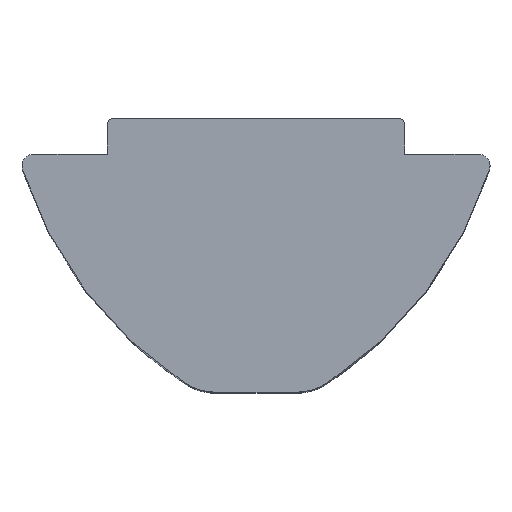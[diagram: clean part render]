
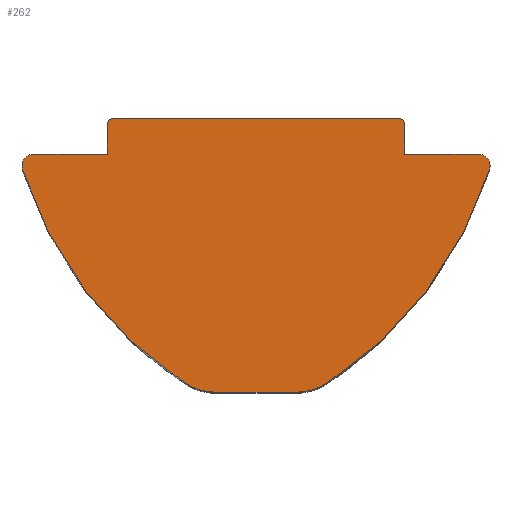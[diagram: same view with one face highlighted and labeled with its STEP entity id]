
A CAD part, top view. The second image highlights one B-rep face of the part: STEP entity #262.
In plain terms, the highlighted planar face has unit normal (0, 0, 1).
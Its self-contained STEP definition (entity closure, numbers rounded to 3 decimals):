
#84=CARTESIAN_POINT('',(-1.84,3.5,0.0));
#85=VERTEX_POINT('',#84);
#92=CARTESIAN_POINT('',(-1.74,3.6,0.0));
#93=VERTEX_POINT('',#92);
#94=CARTESIAN_POINT('',(-1.74,3.5,0.0));
#95=DIRECTION('',(0.0,0.0,-1.));
#96=DIRECTION('',(-0.707,0.707,0.0));
#97=AXIS2_PLACEMENT_3D('',#94,#95,#96);
#98=CIRCLE('',#97,0.1);
#99=EDGE_CURVE('',#85,#93,#98,.T.);
#116=CARTESIAN_POINT('',(3.06,3.6,0.0));
#117=VERTEX_POINT('',#116);
#118=CARTESIAN_POINT('',(-1.74,3.6,0.0));
#119=DIRECTION('',(1.0,0.0,0.0));
#120=VECTOR('',#119,4.8);
#121=LINE('',#118,#120);
#122=EDGE_CURVE('',#93,#117,#121,.T.);
#152=CARTESIAN_POINT('',(0.66,1.757,0.0));
#153=DIRECTION('',(0.0,0.0,1.0));
#154=DIRECTION('',(1.0,0.0,0.0));
#155=AXIS2_PLACEMENT_3D('',#152,#153,#154);
#156=PLANE('',#155);
#157=ORIENTED_EDGE('',*,*,#99,.F.);
#158=CARTESIAN_POINT('',(-1.84,3.,0.0));
#159=VERTEX_POINT('',#158);
#160=CARTESIAN_POINT('',(-1.84,3.,0.0));
#161=DIRECTION('',(0.0,1.0,0.0));
#162=VECTOR('',#161,0.5);
#163=LINE('',#160,#162);
#164=EDGE_CURVE('',#159,#85,#163,.T.);
#165=ORIENTED_EDGE('',*,*,#164,.F.);
#166=CARTESIAN_POINT('',(-3.072,3.,0.0));
#167=VERTEX_POINT('',#166);
#168=CARTESIAN_POINT('',(-3.072,3.,0.0));
#169=DIRECTION('',(1.0,0.0,0.0));
#170=VECTOR('',#169,1.232);
#171=LINE('',#168,#170);
#172=EDGE_CURVE('',#167,#159,#171,.T.);
#173=ORIENTED_EDGE('',*,*,#172,.F.);
#174=CARTESIAN_POINT('',(-3.263,2.739,0.0));
#175=VERTEX_POINT('',#174);
#176=CARTESIAN_POINT('',(-3.072,2.8,0.0));
#177=DIRECTION('',(0.0,0.0,-1.0));
#178=DIRECTION('',(-0.807,0.59,0.0));
#179=AXIS2_PLACEMENT_3D('',#176,#177,#178);
#180=CIRCLE('',#179,0.2);
#181=EDGE_CURVE('',#175,#167,#180,.T.);
#182=ORIENTED_EDGE('',*,*,#181,.F.);
#183=CARTESIAN_POINT('',(-0.549,-0.836,0.0));
#184=VERTEX_POINT('',#183);
#185=CARTESIAN_POINT('',(3.135,4.778,0.0));
#186=DIRECTION('',(0.0,0.0,-1.));
#187=DIRECTION('',(0.964,0.265,0.0));
#188=AXIS2_PLACEMENT_3D('',#185,#186,#187);
#189=CIRCLE('',#188,6.714);
#190=EDGE_CURVE('',#184,#175,#189,.T.);
#191=ORIENTED_EDGE('',*,*,#190,.F.);
#192=CARTESIAN_POINT('',(0.0,-1.,0.0));
#193=VERTEX_POINT('',#192);
#194=CARTESIAN_POINT('',(0.,0.0,0.0));
#195=DIRECTION('',(0.0,0.0,-1.0));
#196=DIRECTION('',(0.549,0.836,0.0));
#197=AXIS2_PLACEMENT_3D('',#194,#195,#196);
#198=CIRCLE('',#197,1.0);
#199=EDGE_CURVE('',#193,#184,#198,.T.);
#200=ORIENTED_EDGE('',*,*,#199,.F.);
#201=CARTESIAN_POINT('',(1.32,-1.,0.0));
#202=VERTEX_POINT('',#201);
#203=CARTESIAN_POINT('',(1.32,-1.,0.0));
#204=DIRECTION('',(-1.0,0.0,0.0));
#205=VECTOR('',#204,1.32);
#206=LINE('',#203,#205);
#207=EDGE_CURVE('',#202,#193,#206,.T.);
#208=ORIENTED_EDGE('',*,*,#207,.F.);
#209=CARTESIAN_POINT('',(1.869,-0.836,0.0));
#210=VERTEX_POINT('',#209);
#211=CARTESIAN_POINT('',(1.32,0.0,0.0));
#212=DIRECTION('',(0.0,0.0,-1.0));
#213=DIRECTION('',(0.,1.0,0.0));
#214=AXIS2_PLACEMENT_3D('',#211,#212,#213);
#215=CIRCLE('',#214,1.0);
#216=EDGE_CURVE('',#210,#202,#215,.T.);
#217=ORIENTED_EDGE('',*,*,#216,.F.);
#218=CARTESIAN_POINT('',(4.583,2.739,0.0));
#219=VERTEX_POINT('',#218);
#220=CARTESIAN_POINT('',(-1.815,4.778,0.0));
#221=DIRECTION('',(0.0,0.0,-1.0));
#222=DIRECTION('',(-0.549,0.836,0.0));
#223=AXIS2_PLACEMENT_3D('',#220,#221,#222);
#224=CIRCLE('',#223,6.714);
#225=EDGE_CURVE('',#219,#210,#224,.T.);
#226=ORIENTED_EDGE('',*,*,#225,.F.);
#227=CARTESIAN_POINT('',(4.392,3.,0.0));
#228=VERTEX_POINT('',#227);
#229=CARTESIAN_POINT('',(4.392,2.8,0.0));
#230=DIRECTION('',(0.0,0.0,-1.0));
#231=DIRECTION('',(0.807,0.59,0.0));
#232=AXIS2_PLACEMENT_3D('',#229,#230,#231);
#233=CIRCLE('',#232,0.2);
#234=EDGE_CURVE('',#228,#219,#233,.T.);
#235=ORIENTED_EDGE('',*,*,#234,.F.);
#236=CARTESIAN_POINT('',(3.16,3.,0.0));
#237=VERTEX_POINT('',#236);
#238=CARTESIAN_POINT('',(3.16,3.,0.0));
#239=DIRECTION('',(1.0,0.0,0.0));
#240=VECTOR('',#239,1.232);
#241=LINE('',#238,#240);
#242=EDGE_CURVE('',#237,#228,#241,.T.);
#243=ORIENTED_EDGE('',*,*,#242,.F.);
#244=CARTESIAN_POINT('',(3.16,3.5,0.0));
#245=VERTEX_POINT('',#244);
#246=CARTESIAN_POINT('',(3.16,3.5,0.0));
#247=DIRECTION('',(0.0,-1.0,0.0));
#248=VECTOR('',#247,0.5);
#249=LINE('',#246,#248);
#250=EDGE_CURVE('',#245,#237,#249,.T.);
#251=ORIENTED_EDGE('',*,*,#250,.F.);
#252=CARTESIAN_POINT('',(3.06,3.5,0.0));
#253=DIRECTION('',(0.0,0.0,-1.));
#254=DIRECTION('',(0.707,0.707,0.0));
#255=AXIS2_PLACEMENT_3D('',#252,#253,#254);
#256=CIRCLE('',#255,0.1);
#257=EDGE_CURVE('',#117,#245,#256,.T.);
#258=ORIENTED_EDGE('',*,*,#257,.F.);
#259=ORIENTED_EDGE('',*,*,#122,.F.);
#260=EDGE_LOOP('',(#157,#165,#173,#182,#191,#200,#208,#217,#226,#235,#243,#251,#258,#259));
#261=FACE_OUTER_BOUND('',#260,.T.);
#262=ADVANCED_FACE('',(#261),#156,.T.);
